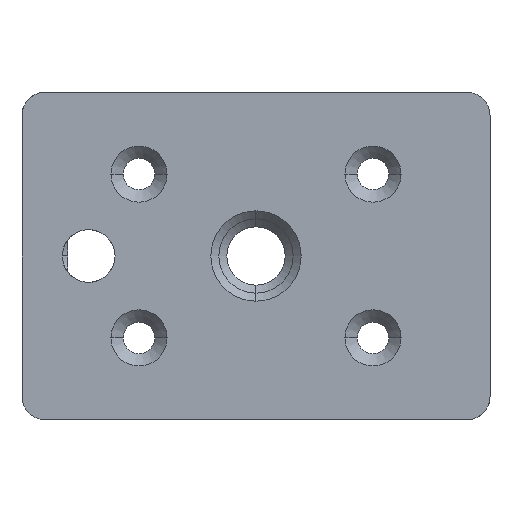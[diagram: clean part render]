
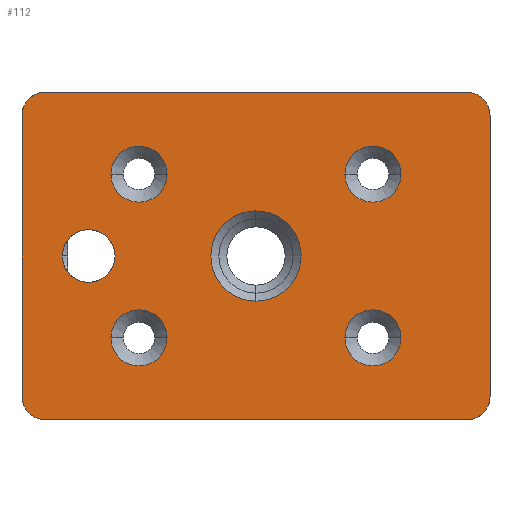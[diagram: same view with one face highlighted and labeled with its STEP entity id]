
A CAD part, front view. The second image highlights one B-rep face of the part: STEP entity #112.
In plain terms, the highlighted planar face has unit normal (0, -1, 0).
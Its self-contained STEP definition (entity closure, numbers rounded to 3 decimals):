
#112=ADVANCED_FACE('',(#250,#251,#252,#253,#254,#255,#181),#695,.T.);
#181=FACE_OUTER_BOUND('',#268,.F.);
#250=FACE_BOUND('',#262,.F.);
#251=FACE_BOUND('',#263,.F.);
#252=FACE_BOUND('',#264,.F.);
#253=FACE_BOUND('',#265,.F.);
#254=FACE_BOUND('',#266,.F.);
#255=FACE_BOUND('',#267,.F.);
#262=EDGE_LOOP('',(#343,#344));
#263=EDGE_LOOP('',(#345,#346));
#264=EDGE_LOOP('',(#347,#348));
#265=EDGE_LOOP('',(#349,#350));
#266=EDGE_LOOP('',(#351,#352));
#267=EDGE_LOOP('',(#353,#354));
#268=EDGE_LOOP('',(#355,#356,#357,#358,#359,#360,#361,#362));
#343=ORIENTED_EDGE('',*,*,#907,.T.);
#344=ORIENTED_EDGE('',*,*,#906,.T.);
#345=ORIENTED_EDGE('',*,*,#911,.T.);
#346=ORIENTED_EDGE('',*,*,#910,.T.);
#347=ORIENTED_EDGE('',*,*,#915,.T.);
#348=ORIENTED_EDGE('',*,*,#914,.T.);
#349=ORIENTED_EDGE('',*,*,#913,.T.);
#350=ORIENTED_EDGE('',*,*,#912,.T.);
#351=ORIENTED_EDGE('',*,*,#909,.T.);
#352=ORIENTED_EDGE('',*,*,#908,.T.);
#353=ORIENTED_EDGE('',*,*,#902,.T.);
#354=ORIENTED_EDGE('',*,*,#903,.T.);
#355=ORIENTED_EDGE('',*,*,#964,.F.);
#356=ORIENTED_EDGE('',*,*,#917,.F.);
#357=ORIENTED_EDGE('',*,*,#965,.F.);
#358=ORIENTED_EDGE('',*,*,#929,.F.);
#359=ORIENTED_EDGE('',*,*,#966,.F.);
#360=ORIENTED_EDGE('',*,*,#925,.F.);
#361=ORIENTED_EDGE('',*,*,#967,.F.);
#362=ORIENTED_EDGE('',*,*,#921,.F.);
#695=PLANE('',#1327);
#734=LINE('',#2040,#816);
#735=LINE('',#2041,#817);
#736=LINE('',#2042,#818);
#737=LINE('',#2043,#819);
#816=VECTOR('',#1516,36.);
#817=VECTOR('',#1517,24.);
#818=VECTOR('',#1518,36.);
#819=VECTOR('',#1519,24.);
#902=EDGE_CURVE('',#1226,#1225,#1078,.T.);
#903=EDGE_CURVE('',#1225,#1226,#1079,.T.);
#906=EDGE_CURVE('',#1221,#1220,#1080,.T.);
#907=EDGE_CURVE('',#1220,#1221,#1081,.T.);
#908=EDGE_CURVE('',#1219,#1218,#1082,.T.);
#909=EDGE_CURVE('',#1218,#1219,#1083,.T.);
#910=EDGE_CURVE('',#1217,#1216,#1084,.T.);
#911=EDGE_CURVE('',#1216,#1217,#1085,.T.);
#912=EDGE_CURVE('',#1215,#1214,#1086,.T.);
#913=EDGE_CURVE('',#1214,#1215,#1087,.T.);
#914=EDGE_CURVE('',#1213,#1212,#1088,.T.);
#915=EDGE_CURVE('',#1212,#1213,#1089,.T.);
#917=EDGE_CURVE('',#1209,#1208,#1090,.T.);
#921=EDGE_CURVE('',#1205,#1204,#1091,.T.);
#925=EDGE_CURVE('',#1201,#1200,#1092,.T.);
#929=EDGE_CURVE('',#1197,#1196,#1093,.T.);
#964=EDGE_CURVE('',#1208,#1205,#734,.T.);
#965=EDGE_CURVE('',#1196,#1209,#735,.T.);
#966=EDGE_CURVE('',#1200,#1197,#736,.T.);
#967=EDGE_CURVE('',#1204,#1201,#737,.T.);
#1078=CIRCLE('',#1269,3.862);
#1079=CIRCLE('',#1270,3.862);
#1080=CIRCLE('',#1271,2.25);
#1081=CIRCLE('',#1272,2.25);
#1082=CIRCLE('',#1273,2.4);
#1083=CIRCLE('',#1274,2.4);
#1084=CIRCLE('',#1275,2.4);
#1085=CIRCLE('',#1276,2.4);
#1086=CIRCLE('',#1277,2.4);
#1087=CIRCLE('',#1278,2.4);
#1088=CIRCLE('',#1279,2.4);
#1089=CIRCLE('',#1280,2.4);
#1090=CIRCLE('',#1281,2.);
#1091=CIRCLE('',#1282,2.);
#1092=CIRCLE('',#1283,2.);
#1093=CIRCLE('',#1284,2.);
#1196=VERTEX_POINT('',#1845);
#1197=VERTEX_POINT('',#1846);
#1200=VERTEX_POINT('',#1849);
#1201=VERTEX_POINT('',#1850);
#1204=VERTEX_POINT('',#1853);
#1205=VERTEX_POINT('',#1854);
#1208=VERTEX_POINT('',#1857);
#1209=VERTEX_POINT('',#1858);
#1212=VERTEX_POINT('',#1861);
#1213=VERTEX_POINT('',#1862);
#1214=VERTEX_POINT('',#1863);
#1215=VERTEX_POINT('',#1864);
#1216=VERTEX_POINT('',#1865);
#1217=VERTEX_POINT('',#1866);
#1218=VERTEX_POINT('',#1867);
#1219=VERTEX_POINT('',#1868);
#1220=VERTEX_POINT('',#1869);
#1221=VERTEX_POINT('',#1870);
#1225=VERTEX_POINT('',#1874);
#1226=VERTEX_POINT('',#1875);
#1269=AXIS2_PLACEMENT_3D('',#1908,#1436,#1437);
#1270=AXIS2_PLACEMENT_3D('',#1909,#1438,#1439);
#1271=AXIS2_PLACEMENT_3D('',#1922,#1440,#1441);
#1272=AXIS2_PLACEMENT_3D('',#1923,#1442,#1443);
#1273=AXIS2_PLACEMENT_3D('',#1924,#1444,#1445);
#1274=AXIS2_PLACEMENT_3D('',#1925,#1446,#1447);
#1275=AXIS2_PLACEMENT_3D('',#1926,#1448,#1449);
#1276=AXIS2_PLACEMENT_3D('',#1927,#1450,#1451);
#1277=AXIS2_PLACEMENT_3D('',#1928,#1452,#1453);
#1278=AXIS2_PLACEMENT_3D('',#1929,#1454,#1455);
#1279=AXIS2_PLACEMENT_3D('',#1930,#1456,#1457);
#1280=AXIS2_PLACEMENT_3D('',#1931,#1458,#1459);
#1281=AXIS2_PLACEMENT_3D('',#1943,#1460,#1461);
#1282=AXIS2_PLACEMENT_3D('',#1957,#1464,#1465);
#1283=AXIS2_PLACEMENT_3D('',#1971,#1468,#1469);
#1284=AXIS2_PLACEMENT_3D('',#1985,#1472,#1473);
#1327=AXIS2_PLACEMENT_3D('',#2162,#1628,#1629);
#1436=DIRECTION('',(0.,-1.,0.));
#1437=DIRECTION('',(0.,0.,1.));
#1438=DIRECTION('',(0.,-1.,0.));
#1439=DIRECTION('',(0.,0.,-1.));
#1440=DIRECTION('',(0.,-1.,0.));
#1441=DIRECTION('',(-1.,0.,0.));
#1442=DIRECTION('',(0.,-1.,0.));
#1443=DIRECTION('',(1.,0.,0.));
#1444=DIRECTION('',(0.,-1.,0.));
#1445=DIRECTION('',(-1.,0.,0.));
#1446=DIRECTION('',(0.,-1.,0.));
#1447=DIRECTION('',(1.,0.,0.));
#1448=DIRECTION('',(0.,-1.,0.));
#1449=DIRECTION('',(-1.,0.,0.));
#1450=DIRECTION('',(0.,-1.,0.));
#1451=DIRECTION('',(1.,0.,0.));
#1452=DIRECTION('',(0.,-1.,0.));
#1453=DIRECTION('',(-1.,0.,0.));
#1454=DIRECTION('',(0.,-1.,0.));
#1455=DIRECTION('',(1.,0.,0.));
#1456=DIRECTION('',(0.,-1.,0.));
#1457=DIRECTION('',(-1.,0.,0.));
#1458=DIRECTION('',(0.,-1.,0.));
#1459=DIRECTION('',(1.,0.,0.));
#1460=DIRECTION('',(0.,-1.,0.));
#1461=DIRECTION('',(1.,0.,0.));
#1464=DIRECTION('',(0.,-1.,0.));
#1465=DIRECTION('',(0.,0.,1.));
#1468=DIRECTION('',(0.,-1.,0.));
#1469=DIRECTION('',(-1.,0.,0.));
#1472=DIRECTION('',(0.,-1.,0.));
#1473=DIRECTION('',(0.,0.,-1.));
#1516=DIRECTION('',(-1.,0.,0.));
#1517=DIRECTION('',(0.,0.,1.));
#1518=DIRECTION('',(1.,0.,0.));
#1519=DIRECTION('',(0.,0.,-1.));
#1628=DIRECTION('',(0.,-1.,0.));
#1629=DIRECTION('',(0.,0.,1.));
#1845=CARTESIAN_POINT('',(217.042,-3.87,-110.25));
#1846=CARTESIAN_POINT('',(215.042,-3.87,-112.25));
#1849=CARTESIAN_POINT('',(179.042,-3.87,-112.25));
#1850=CARTESIAN_POINT('',(177.042,-3.87,-110.25));
#1853=CARTESIAN_POINT('',(177.042,-3.87,-86.25));
#1854=CARTESIAN_POINT('',(179.042,-3.87,-84.25));
#1857=CARTESIAN_POINT('',(215.042,-3.87,-84.25));
#1858=CARTESIAN_POINT('',(217.042,-3.87,-86.25));
#1861=CARTESIAN_POINT('',(209.442,-3.87,-91.25));
#1862=CARTESIAN_POINT('',(204.642,-3.87,-91.25));
#1863=CARTESIAN_POINT('',(209.442,-3.87,-105.25));
#1864=CARTESIAN_POINT('',(204.642,-3.87,-105.25));
#1865=CARTESIAN_POINT('',(189.442,-3.87,-91.25));
#1866=CARTESIAN_POINT('',(184.642,-3.87,-91.25));
#1867=CARTESIAN_POINT('',(189.442,-3.87,-105.25));
#1868=CARTESIAN_POINT('',(184.642,-3.87,-105.25));
#1869=CARTESIAN_POINT('',(184.992,-3.87,-98.25));
#1870=CARTESIAN_POINT('',(180.492,-3.87,-98.25));
#1874=CARTESIAN_POINT('',(197.042,-3.87,-102.113));
#1875=CARTESIAN_POINT('',(197.042,-3.87,-94.388));
#1908=CARTESIAN_POINT('',(197.042,-3.87,-98.25));
#1909=CARTESIAN_POINT('',(197.042,-3.87,-98.25));
#1922=CARTESIAN_POINT('',(182.742,-3.87,-98.25));
#1923=CARTESIAN_POINT('',(182.742,-3.87,-98.25));
#1924=CARTESIAN_POINT('',(187.042,-3.87,-105.25));
#1925=CARTESIAN_POINT('',(187.042,-3.87,-105.25));
#1926=CARTESIAN_POINT('',(187.042,-3.87,-91.25));
#1927=CARTESIAN_POINT('',(187.042,-3.87,-91.25));
#1928=CARTESIAN_POINT('',(207.042,-3.87,-105.25));
#1929=CARTESIAN_POINT('',(207.042,-3.87,-105.25));
#1930=CARTESIAN_POINT('',(207.042,-3.87,-91.25));
#1931=CARTESIAN_POINT('',(207.042,-3.87,-91.25));
#1943=CARTESIAN_POINT('',(215.042,-3.87,-86.25));
#1957=CARTESIAN_POINT('',(179.042,-3.87,-86.25));
#1971=CARTESIAN_POINT('',(179.042,-3.87,-110.25));
#1985=CARTESIAN_POINT('',(215.042,-3.87,-110.25));
#2040=CARTESIAN_POINT('',(215.042,-3.87,-84.25));
#2041=CARTESIAN_POINT('',(217.042,-3.87,-110.25));
#2042=CARTESIAN_POINT('',(179.042,-3.87,-112.25));
#2043=CARTESIAN_POINT('',(177.042,-3.87,-86.25));
#2162=CARTESIAN_POINT('',(217.442,-3.87,-112.65));
